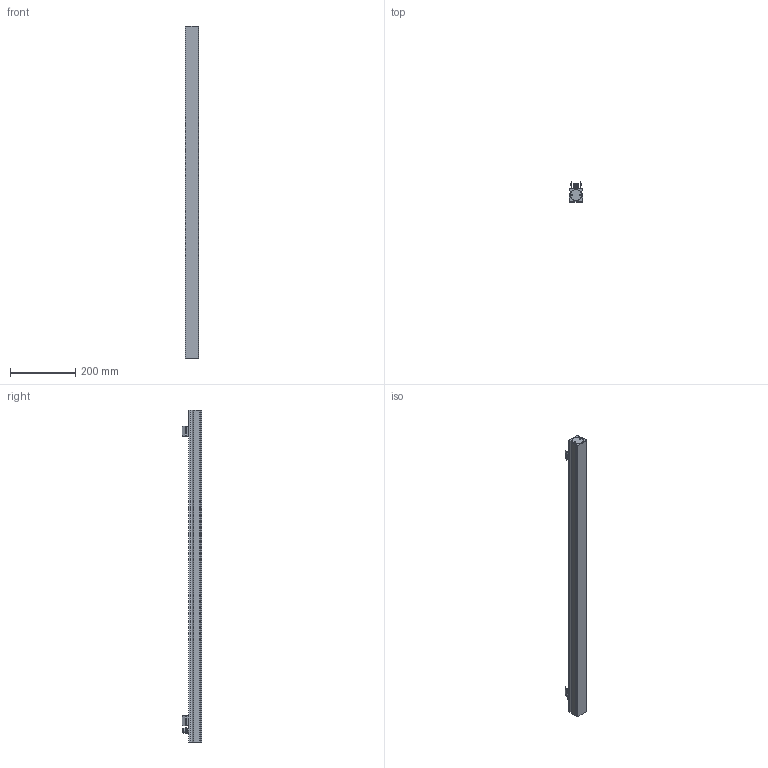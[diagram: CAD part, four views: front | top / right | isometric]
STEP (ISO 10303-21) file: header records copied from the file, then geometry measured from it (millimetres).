
FILE_DESCRIPTION((''),'2;1');
FILE_NAME('RNC_1020_SW0001','2025-07-24T11:23:03',('Piccioli'),(''),'CREO PARAMETRIC BY PTC INC, 2025010','CREO PARAMETRIC BY PTC INC, 2025010','');
FILE_SCHEMA(('CONFIG_CONTROL_DESIGN'));
Length unit declared in the file: millimetre
Products named in the file (1): RNC_1020_SW0001
Bounding box: 40 x 60.58 x 1018 mm (x, y, z)
Surface area: 175731.4 mm2 (no closed solid volume)
Topology: 0 solids, 11 shells, 140 faces, 555 edges, 399 vertices
Faces by surface type: cylinder 68, plane 62, bspline 6, torus 4
Entity records: 6212 total; most frequent: CARTESIAN_POINT 1526, DIRECTION 1044, ORIENTED_EDGE 827, EDGE_CURVE 555, VERTEX_POINT 399, AXIS2_PLACEMENT_3D 379, VECTOR 286, LINE 286
